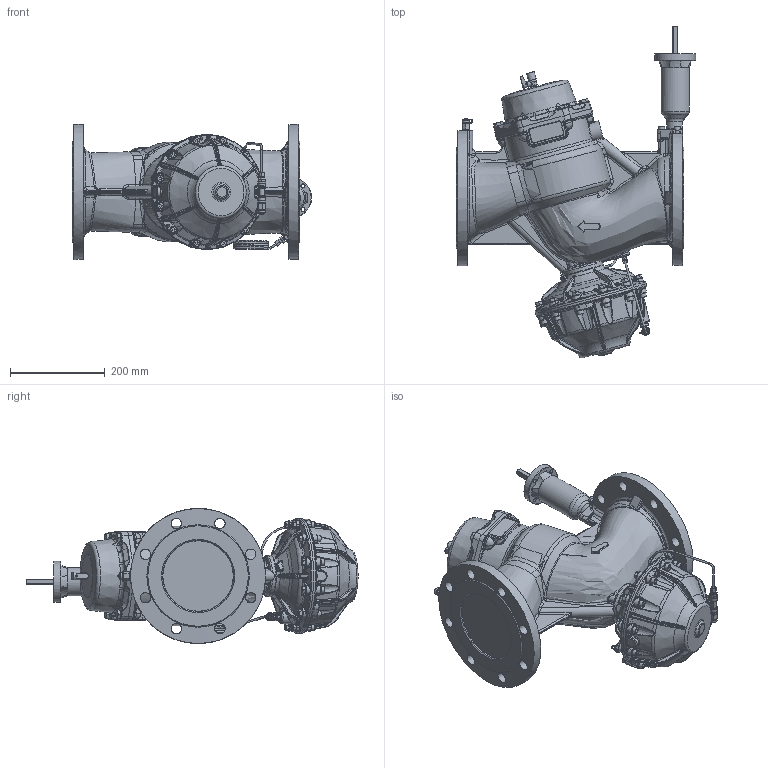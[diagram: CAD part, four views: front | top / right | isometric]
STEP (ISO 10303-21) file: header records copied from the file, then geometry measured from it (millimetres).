
FILE_DESCRIPTION (( 'STEP AP203' ), '1' );
FILE_NAME ('EKOFLUX.PI15016.STEP', '2017-12-18T07:40:55', ( 'dell2' ), ( 'Microsoft' ), 'SwSTEP 2.0', 'SolidWorks 2014', '' );
FILE_SCHEMA (( 'CONFIG_CONTROL_DESIGN' ));
Products named in the file (1): EKOFLUX.PI15016
Bounding box: 504.81 x 700.35 x 285 mm (x, y, z)
Volume: 22673398.5 mm3; surface area: 915011.5 mm2
Topology: 1 solids, 30 shells, 3366 faces, 8038 edges, 4766 vertices
Faces by surface type: bspline 1229, plane 780, cylinder 514, cone 491, torus 291, sphere 61
Full cylindrical faces by diameter (mm): 3.8 x2, 4 x10, 5.568 x2, 6.5 x5, 6.7 x1, 6.75 x3, 7.4 x2, 7.895 x1, 8 x17, 8.5 x19, 8.9 x2, 9 x4, 9.2 x2, 9.345 x2, 9.6 x1, 9.7 x2, 9.8 x5, 11.445 x2, 11.45 x1, 11.5 x4, 11.7 x1, 12 x1, 13 x15, 13.15 x1, 13.157 x3, 15 x3, 15.6 x1, 16 x4, 16.6 x1, 16.8 x2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
Entity records: 206123 total; most frequent: CARTESIAN_POINT 140670, ORIENTED_EDGE 15120, DIRECTION 11126, EDGE_CURVE 7560, AXIS2_PLACEMENT_3D 4798, VERTEX_POINT 4594, EDGE_LOOP 3790, FACE_OUTER_BOUND 3541
